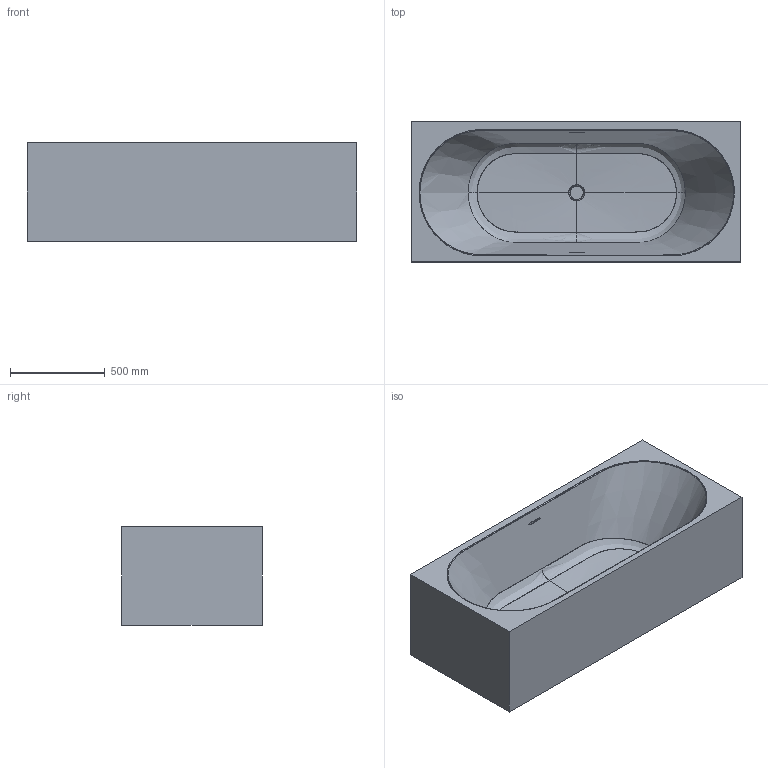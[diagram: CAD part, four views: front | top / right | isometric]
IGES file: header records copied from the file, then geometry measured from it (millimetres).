
Global section: file name: \\Archi-NAS\Comune\X GIOVANNI\LAVABI\VASCHE SQUADRATE CUSTOMIZZABILI\SAPPHIRE\3D\SAPPHIRE.igs; native system: Rhinoceros ( Feb 23 2021 ); preprocessor: Trout Lake IGES 012 Feb 23 2021; date: 230531.124809; units: millimetre
Bounding box: 1740 x 740 x 520 mm (x, y, z)
Surface area: 5364199.7 mm2 (no closed solid volume)
Topology: 0 solids, 0 shells, 54 faces, 491 edges, 482 vertices
Faces by surface type: bspline 54
